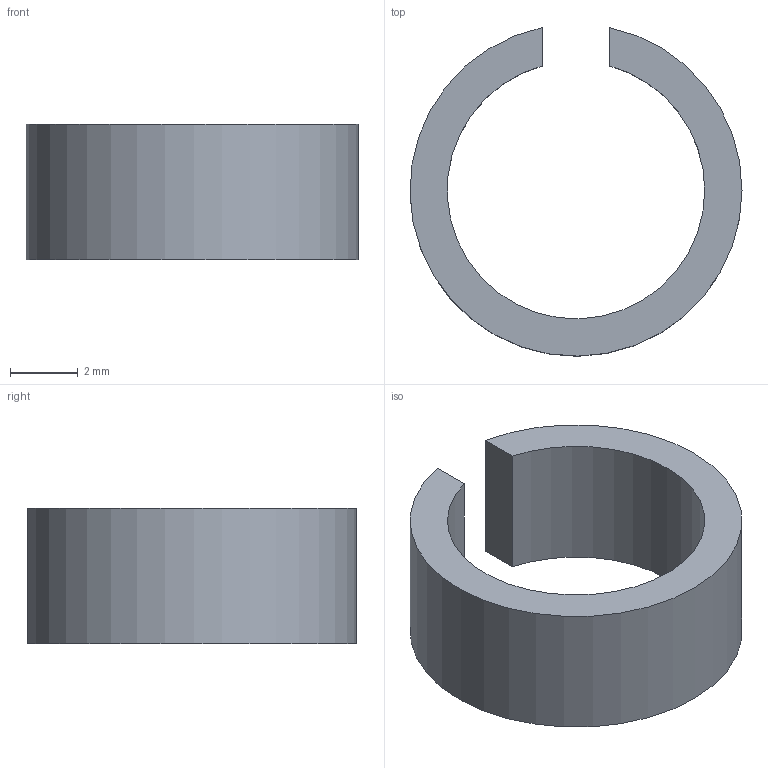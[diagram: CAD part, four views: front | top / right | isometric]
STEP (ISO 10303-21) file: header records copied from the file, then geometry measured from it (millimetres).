
FILE_DESCRIPTION(('FreeCAD Model'),'2;1');
FILE_NAME('Open CASCADE Shape Model','2026-11-20T08:25:39',('FreeCAD'),( 'FreeCAD'),'Open CASCADE STEP processor 7.8','FreeCAD','Unknown');
FILE_SCHEMA(('AUTOMOTIVE_DESIGN { 1 0 10303 214 1 1 1 1 }'));
Length unit declared in the file: millimetre
Products named in the file (1): Open CASCADE STEP translator 7.8 84
Bounding box: 9.8 x 9.7 x 4 mm (x, y, z)
Volume: 111.4 mm3; surface area: 267.2 mm2
Topology: 1 solids, 1 shells, 6 faces, 16 edges, 12 vertices
Faces by surface type: plane 4, cylinder 2
Entity records: 210 total; most frequent: DIRECTION 38, CARTESIAN_POINT 35, ORIENTED_EDGE 32, EDGE_CURVE 16, AXIS2_PLACEMENT_3D 15, VERTEX_POINT 12, CIRCLE 8, LINE 8
